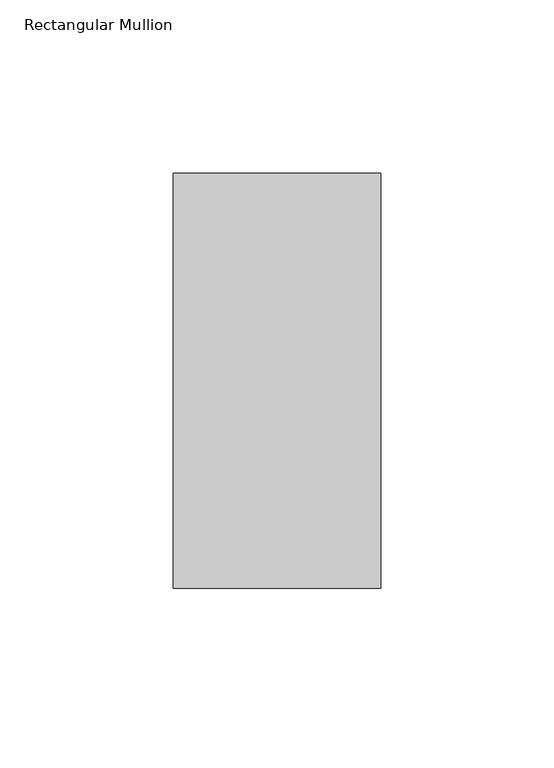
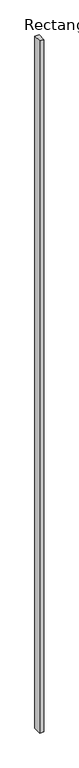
"""IFC4 building model written with IfcOpenShell, lengths in millimetres: member geometry, Rectangular Mullion : Terça."""

from ifc_helpers import new_model, si_unit, frame, origin, place, context, project, spatial, polyline, outline, extrude, source, transform, mapped, element, save


def rectangular_mullion_75f7635b(model_context):
    return source(origin(), model_context, "Body", "SweptSolid", [
        extrude(outline(polyline([(0.0, -120.0), (-60.0, -120.0), (-60.0, 0.0), (0.0, 0.0), (0.0, -120.0)])), frame((0.0, 0.0, -10660.1380994), z_axis=(0.0, 0.0, 1.0), x_axis=(1.0, 0.0, 0.0)), (0.0, 0.0, 1.0), 10660.1380994),
    ])


if __name__ == "__main__":
    model = new_model("IFC4")
    model_context = context("Model", 3, world=origin())
    ifc_project = project(units=[si_unit("LENGTHUNIT", "METRE", prefix="MILLI")], contexts=[model_context])
    site = spatial("IfcSite", under=ifc_project)
    building = spatial("IfcBuilding", under=site)
    placement = place(None, origin())
    rectangular_mullion_shape = rectangular_mullion_75f7635b(model_context)
    element("IfcMember", 1, ObjectType="Rectangular Mullion : Terça", at=placement, inside=building, context=model_context, shape_type="MappedRepresentation", body=[
        mapped(rectangular_mullion_shape, transform((0.0, 0.0, 0.0), x_axis=(1.0, 0.0, 0.0), y_axis=(0.0, 1.0, 0.0), z_axis=(0.0, 0.0, 1.0))),
    ])
    save(model, "model.ifc")
